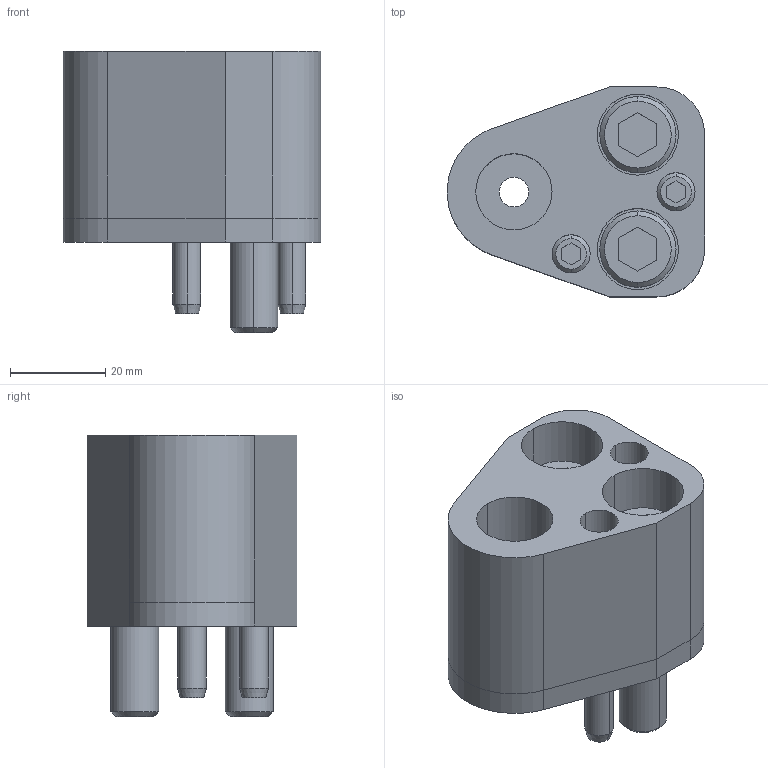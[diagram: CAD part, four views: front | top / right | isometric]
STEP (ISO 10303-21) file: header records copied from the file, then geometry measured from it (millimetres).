
FILE_DESCRIPTION(/* description */ (''),/* implementation_level */ '2;1');
FILE_NAME(/* name */ '3d_hap-ap16_02769_r00.stp',/* time_stamp */ '2011-01-10T14:14:58+09:00',/* author */ ('MISUMI'),/* organization */ (''),/* preprocessor_version */ 'ST-DEVELOPER v11',/* originating_system */ 'UGS - NX 5.0',/* authorisation */ '');
FILE_SCHEMA (('CONFIG_CONTROL_DESIGN'));
Length unit declared in the file: millimetre
Products named in the file (1): 3d_hap-ap16_02769_r00
Bounding box: 53.95 x 44 x 59 mm (x, y, z)
Volume: 62569.1 mm3; surface area: 26358.2 mm2
Topology: 8 solids, 8 shells, 155 faces, 346 edges, 222 vertices
Faces by surface type: plane 67, cylinder 62, cone 26
Entity records: 4474 total; most frequent: DIRECTION 804, CARTESIAN_POINT 772, ORIENTED_EDGE 692, EDGE_CURVE 346, AXIS2_PLACEMENT_3D 306, VERTEX_POINT 222, LINE 192, VECTOR 192
